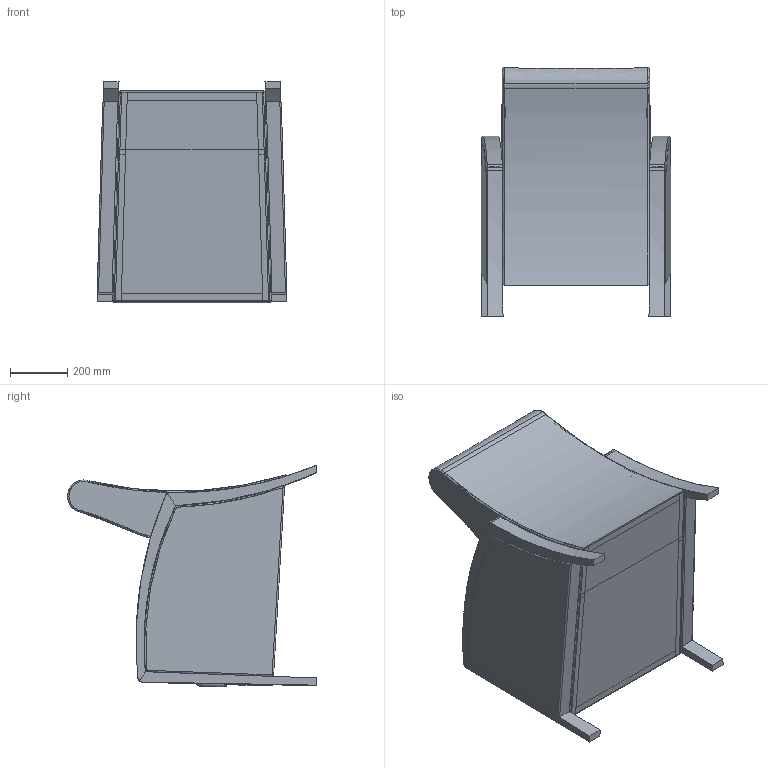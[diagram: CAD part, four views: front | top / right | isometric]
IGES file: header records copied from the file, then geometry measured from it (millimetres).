
Start section: SolidWorks IGES file using analytic representation for surfaces
Global section: file name: C:\Users\emanuel\Desktop\Siana_3D\Regina SG823.IGS; native system: SolidWorks 2015; preprocessor: SolidWorks 2015; author: Emanuel; date: 151113.162650; units: millimetre
Bounding box: 662.29 x 869.11 x 773.26 mm (x, y, z)
Surface area: 6263781.8 mm2 (no closed solid volume)
Topology: 0 solids, 0 shells, 520 faces, 5954 edges, 5938 vertices
Faces by surface type: bspline 391, revolution 129
